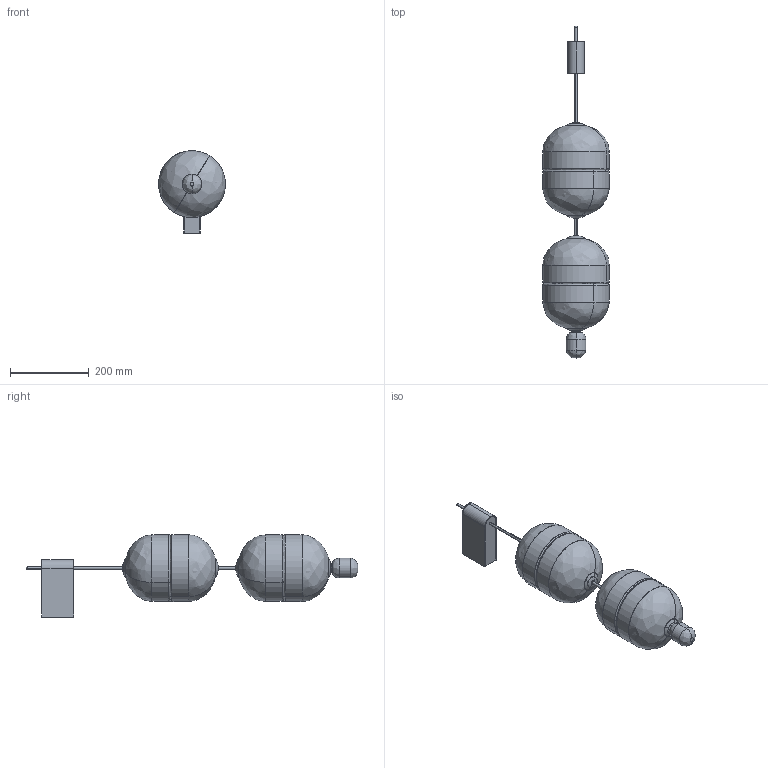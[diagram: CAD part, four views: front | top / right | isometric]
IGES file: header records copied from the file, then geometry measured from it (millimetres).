
Start section: SolidWorks IGES file using analytic representation for surfaces
Global section: file name: C:\Users\liamb\Dropbox\Rakumba Marketing - Design\LIGHTWEIGHT CAD MODEL LIBRARY\Exported File Formats FOR CLIENT USE - Public\Indre\Indre Wall Mount B\Light Weight - Indre - Indre Wall Mount B.IGS; native system: SolidWorks 2017; preprocessor: SolidWorks 2017; author: liamb; date: 230613.171807; units: millimetre
Bounding box: 169.98 x 845.13 x 209.98 mm (x, y, z)
Surface area: 882072.9 mm2 (no closed solid volume)
Topology: 0 solids, 0 shells, 281 faces, 3528 edges, 3526 vertices
Faces by surface type: bspline 149, revolution 132
